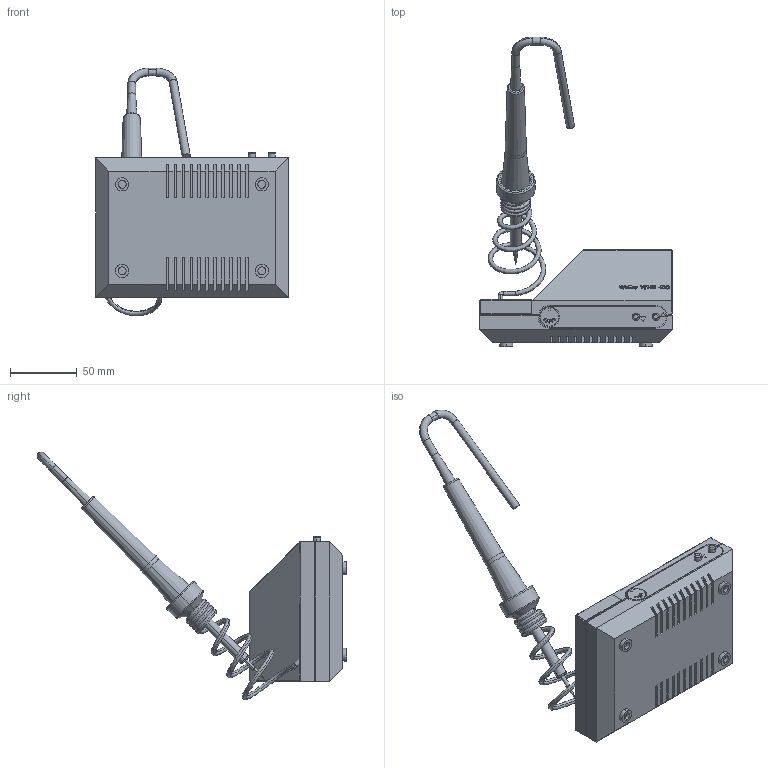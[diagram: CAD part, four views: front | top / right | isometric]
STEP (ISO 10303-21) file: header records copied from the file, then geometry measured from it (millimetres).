
FILE_DESCRIPTION (( 'STEP AP214' ), '1' );
FILE_NAME ('WHS 40D.STEP', '2020-02-10T05:22:00', ( '' ), ( '' ), 'SwSTEP 2.0', 'SolidWorks 2019', '' );
FILE_SCHEMA (( 'AUTOMOTIVE_DESIGN' ));
Length unit declared in the file: millimetre
Products named in the file (3): WH40_D‚faut; WHS 40D_DＧaut; WHS 40D
Assembly tree (2 placements, depth 2):
  WHS 40D
    WHS 40D_DＧaut
    WH40_D‚faut
Bounding box: 145 x 232.58 x 186.1 mm (x, y, z)
Volume: 772754.1 mm3; surface area: 89563.1 mm2
Topology: 3 solids, 4 shells, 924 faces, 2385 edges, 1463 vertices
Faces by surface type: plane 322, cylinder 263, bspline 238, sphere 43, torus 40, cone 18
Entity records: 46858 total; most frequent: CARTESIAN_POINT 18788, ORIENTED_EDGE 4680, DIRECTION 3613, EDGE_CURVE 2340, VERTEX_POINT 1463, LINE 1319, VECTOR 1319, AXIS2_PLACEMENT_3D 1147
